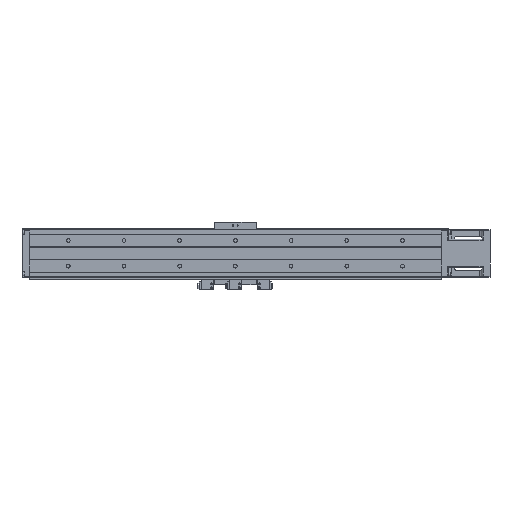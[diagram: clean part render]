
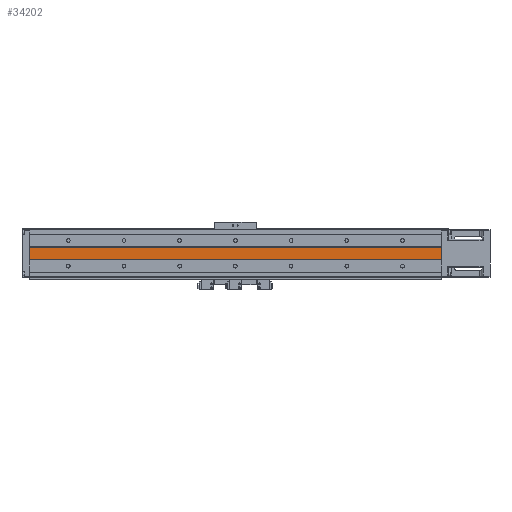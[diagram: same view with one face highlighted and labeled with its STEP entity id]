
A CAD part, front view. The second image highlights one B-rep face of the part: STEP entity #34202.
In plain terms, the highlighted planar face has unit normal (0, -1, 0).
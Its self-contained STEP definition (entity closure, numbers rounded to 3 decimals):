
#890 = LINE ( 'NONE', #37086, #1431 ) ;
#1431 = VECTOR ( 'NONE', #27461, 1000. ) ;
#1601 = VERTEX_POINT ( 'NONE', #27188 ) ;
#5130 = DIRECTION ( 'NONE',  ( 1., 0., 0. ) ) ;
#7385 = DIRECTION ( 'NONE',  ( 0., -1., 0. ) ) ;
#8027 = LINE ( 'NONE', #40769, #30307 ) ;
#12124 = ORIENTED_EDGE ( 'NONE', *, *, #15626, .T. ) ;
#12137 = VERTEX_POINT ( 'NONE', #33532 ) ;
#14434 = EDGE_CURVE ( 'NONE', #14927, #12137, #20538, .T. ) ;
#14453 = VECTOR ( 'NONE', #20517, 1000. ) ;
#14927 = VERTEX_POINT ( 'NONE', #17065 ) ;
#15626 = EDGE_CURVE ( 'NONE', #14927, #1601, #890, .T. ) ;
#16447 = FACE_OUTER_BOUND ( 'NONE', #26615, .T. ) ;
#17065 = CARTESIAN_POINT ( 'NONE',  ( -420., -31.5, 11. ) ) ;
#18560 = LINE ( 'NONE', #24159, #25626 ) ;
#20517 = DIRECTION ( 'NONE',  ( 1., 0., 0. ) ) ;
#20538 = LINE ( 'NONE', #39687, #14453 ) ;
#22737 = ORIENTED_EDGE ( 'NONE', *, *, #29115, .F. ) ;
#24159 = CARTESIAN_POINT ( 'NONE',  ( -420., -31.5, -11. ) ) ;
#25626 = VECTOR ( 'NONE', #5130, 1000. ) ;
#26615 = EDGE_LOOP ( 'NONE', ( #12124, #27425, #22737, #37011 ) ) ;
#26627 = PLANE ( 'NONE',  #39353 ) ;
#27188 = CARTESIAN_POINT ( 'NONE',  ( -420., -31.5, -11. ) ) ;
#27425 = ORIENTED_EDGE ( 'NONE', *, *, #31409, .T. ) ;
#27461 = DIRECTION ( 'NONE',  ( 0., 0., -1. ) ) ;
#28176 = DIRECTION ( 'NONE',  ( 0., 0., -1. ) ) ;
#29115 = EDGE_CURVE ( 'NONE', #12137, #39685, #8027, .T. ) ;
#30307 = VECTOR ( 'NONE', #28176, 1000. ) ;
#31409 = EDGE_CURVE ( 'NONE', #1601, #39685, #18560, .T. ) ;
#32876 = CARTESIAN_POINT ( 'NONE',  ( 320., -31.5, -11. ) ) ;
#33532 = CARTESIAN_POINT ( 'NONE',  ( 320., -31.5, 11. ) ) ;
#34202 = ADVANCED_FACE ( 'NONE', ( #16447 ), #26627, .T. ) ;
#37011 = ORIENTED_EDGE ( 'NONE', *, *, #14434, .F. ) ;
#37086 = CARTESIAN_POINT ( 'NONE',  ( -420., -31.5, -5.5 ) ) ;
#37611 = CARTESIAN_POINT ( 'NONE',  ( 320., -31.5, -11. ) ) ;
#39353 = AXIS2_PLACEMENT_3D ( 'NONE', #32876, #7385, #39484 ) ;
#39484 = DIRECTION ( 'NONE',  ( -1., 0., 0. ) ) ;
#39685 = VERTEX_POINT ( 'NONE', #37611 ) ;
#39687 = CARTESIAN_POINT ( 'NONE',  ( -420., -31.5, 11. ) ) ;
#40769 = CARTESIAN_POINT ( 'NONE',  ( 320., -31.5, 11. ) ) ;
